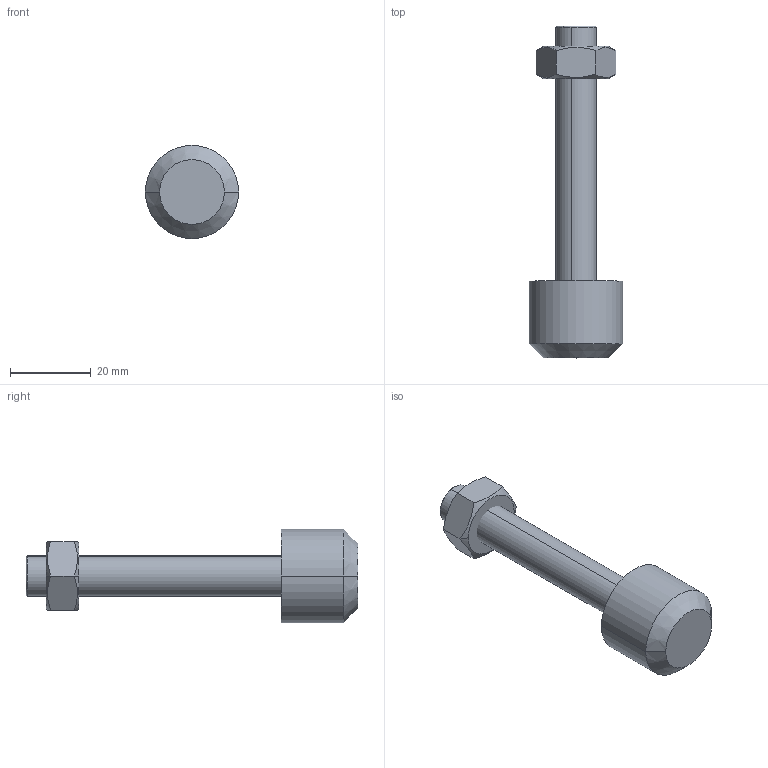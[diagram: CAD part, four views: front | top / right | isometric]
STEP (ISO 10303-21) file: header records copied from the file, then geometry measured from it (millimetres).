
FILE_DESCRIPTION (( 'STEP AP203' ), '1' );
FILE_NAME ('PB-M10.STEP', '2016-07-25T17:58:57', ( 'Ricardo' ), ( '' ), 'SwSTEP 2.0', 'SolidWorks 2015', '' );
FILE_SCHEMA (( 'CONFIG_CONTROL_DESIGN' ));
Length unit declared in the file: millimetre
Products named in the file (4): PB-M10; 20.20011; 20.20015; 11.50003
Assembly tree (3 placements, depth 2):
  PB-M10
    20.20011
    20.20015
    11.50003
Bounding box: 23 x 82 x 23 mm (x, y, z)
Volume: 13854.7 mm3; surface area: 5759.7 mm2
Topology: 3 solids, 3 shells, 36 faces, 78 edges, 47 vertices
Faces by surface type: cone 16, plane 12, cylinder 8
Entity records: 1484 total; most frequent: CARTESIAN_POINT 289, DIRECTION 182, ORIENTED_EDGE 152, AXIS2_PLACEMENT_3D 76, EDGE_CURVE 76, VERTEX_POINT 47, EDGE_LOOP 39, ADVANCED_FACE 36
